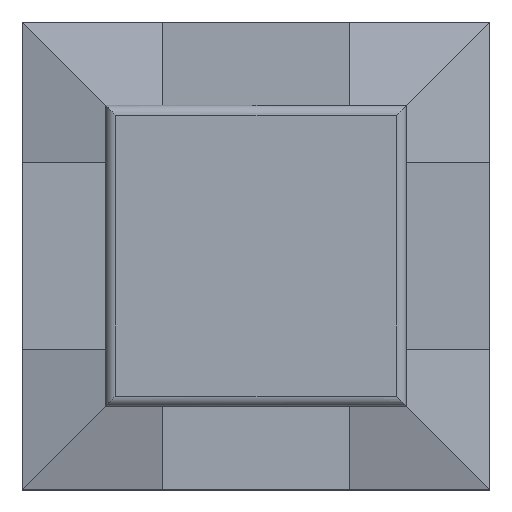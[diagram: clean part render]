
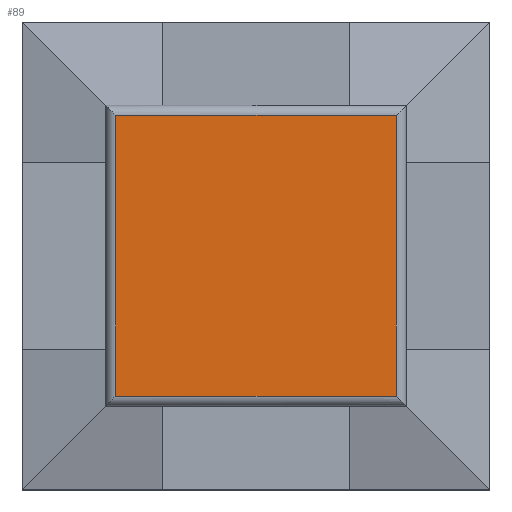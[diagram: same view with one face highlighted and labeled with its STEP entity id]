
A CAD part, top view. The second image highlights one B-rep face of the part: STEP entity #89.
In plain terms, the highlighted planar face has unit normal (0, 0, 1).
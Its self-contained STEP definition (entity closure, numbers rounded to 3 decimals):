
#89=ADVANCED_FACE('',(#227),#228,.F.);
#227=FACE_OUTER_BOUND('',#412,.T.);
#228=PLANE('',#413);
#412=EDGE_LOOP('',(#610,#611,#612,#613));
#413=AXIS2_PLACEMENT_3D('',#614,#615,#616);
#610=ORIENTED_EDGE('',*,*,#1185,.F.);
#611=ORIENTED_EDGE('',*,*,#1186,.T.);
#612=ORIENTED_EDGE('',*,*,#1187,.T.);
#613=ORIENTED_EDGE('',*,*,#1188,.F.);
#614=CARTESIAN_POINT('',(4.2,-7.,3.9));
#615=DIRECTION('',(0.0,0.0,-1.0));
#616=DIRECTION('',(0.0,1.0,0.0));
#1185=EDGE_CURVE('',#1434,#1435,#1436,.T.);
#1186=EDGE_CURVE('',#1434,#1437,#1438,.T.);
#1187=EDGE_CURVE('',#1437,#1439,#1440,.T.);
#1188=EDGE_CURVE('',#1435,#1439,#1441,.T.);
#1434=VERTEX_POINT('',#1793);
#1435=VERTEX_POINT('',#1794);
#1436=LINE('',#1795,#1796);
#1437=VERTEX_POINT('',#1797);
#1438=LINE('',#1798,#1799);
#1439=VERTEX_POINT('',#1800);
#1440=LINE('',#1801,#1802);
#1441=LINE('',#1803,#1804);
#1793=CARTESIAN_POINT('',(-4.2,-4.2,3.9));
#1794=CARTESIAN_POINT('',(-4.2,4.2,3.9));
#1795=CARTESIAN_POINT('',(-4.2,-7.,3.9));
#1796=VECTOR('',#2274,1.0);
#1797=CARTESIAN_POINT('',(4.2,-4.2,3.9));
#1798=CARTESIAN_POINT('',(-7.,-4.2,3.9));
#1799=VECTOR('',#2275,1.0);
#1800=CARTESIAN_POINT('',(4.2,4.2,3.9));
#1801=CARTESIAN_POINT('',(4.2,-7.,3.9));
#1802=VECTOR('',#2276,1.0);
#1803=CARTESIAN_POINT('',(-7.,4.2,3.9));
#1804=VECTOR('',#2277,1.0);
#2274=DIRECTION('',(0.0,1.0,0.0));
#2275=DIRECTION('',(1.0,0.0,0.0));
#2276=DIRECTION('',(0.0,1.0,0.0));
#2277=DIRECTION('',(1.0,0.0,0.0));
